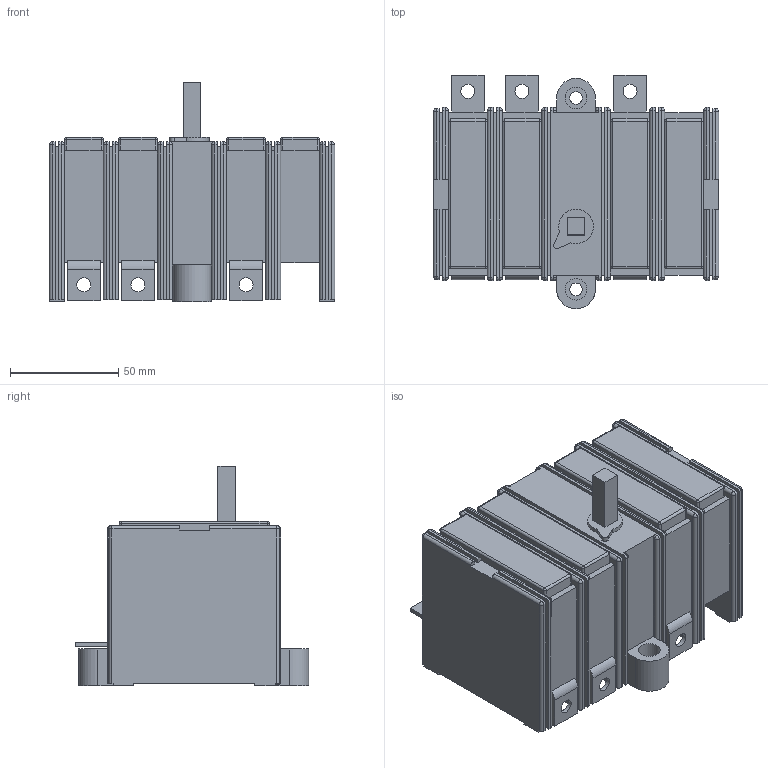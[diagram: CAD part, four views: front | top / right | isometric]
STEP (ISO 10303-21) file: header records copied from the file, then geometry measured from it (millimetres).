
FILE_DESCRIPTION(/* description */ (''),/* implementation_level */ '2;1');
FILE_NAME(/* name */ 'RA100 P3 B.stp',/* time_stamp */ '2021-08-17T12:19:15+02:00',/* author */ (''),/* organization */ (''),/* preprocessor_version */ 'ST-DEVELOPER v18.1',/* originating_system */ 'SIEMENS PLM Software NX 1965',/* authorisation */ '');
FILE_SCHEMA (('FEATURE_BASED_PROCESS_PLANNING','PROCESS_PLANNING_SCHEMA'));
Length unit declared in the file: millimetre
Products named in the file (1): RA100 P3 B_stp
Bounding box: 132 x 108 x 101.5 mm (x, y, z)
Volume: 659085.1 mm3; surface area: 76703.8 mm2
Topology: 1 solids, 1 shells, 366 faces, 982 edges, 582 vertices
Faces by surface type: plane 208, cylinder 118, sphere 39, bspline 1
Full cylindrical faces by diameter (mm): 5.8 x2, 6.5 x6, 10 x2
Entity records: 10955 total; most frequent: CARTESIAN_POINT 1919, DIRECTION 1893, ORIENTED_EDGE 1860, EDGE_CURVE 930, LINE 693, VECTOR 693, AXIS2_PLACEMENT_3D 600, VERTEX_POINT 580
